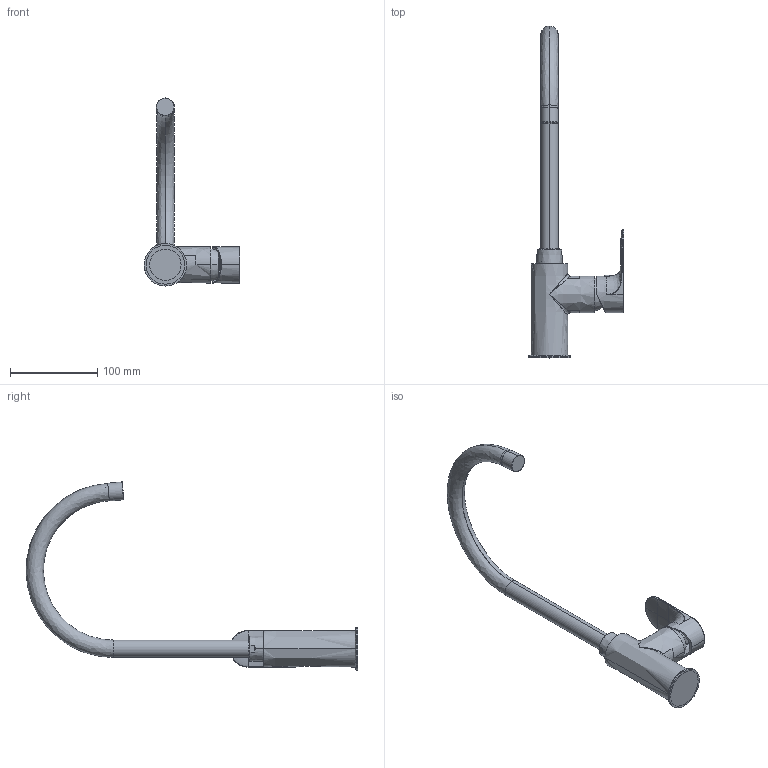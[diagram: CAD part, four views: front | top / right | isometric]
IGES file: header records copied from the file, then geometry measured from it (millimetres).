
Start section:  PTC IGES file: 64165.igs
Global section: file name: 64165.igs; native system: Creo Parametric by PTC Inc.; preprocessor: 2018100; author: volponeff; organization: Unknown; date: 20200605.085840; units: millimetre
Bounding box: 109.8 x 380.85 x 215.87 mm (x, y, z)
Surface area: 125804.4 mm2 (no closed solid volume)
Topology: 0 solids, 0 shells, 436 faces, 1954 edges, 1940 vertices
Faces by surface type: revolution 292, bspline 142, extrusion 2
